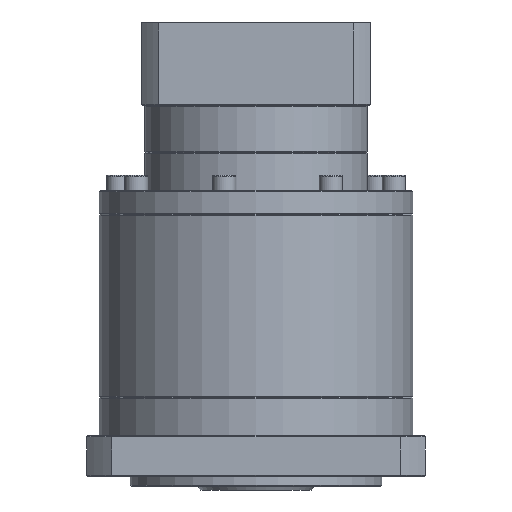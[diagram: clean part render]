
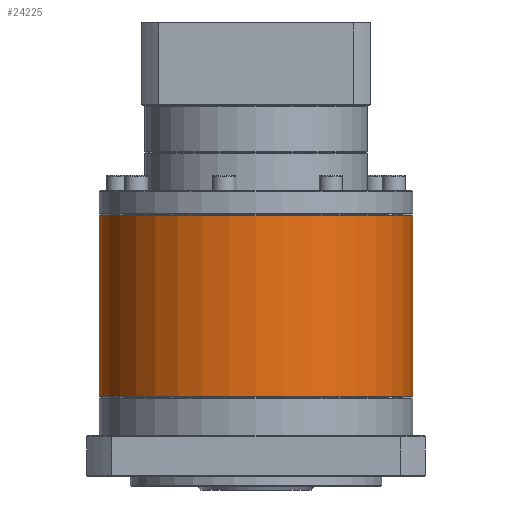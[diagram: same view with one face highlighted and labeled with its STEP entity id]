
A CAD part, front view. The second image highlights one B-rep face of the part: STEP entity #24225.
In plain terms, the highlighted cylindrical face has radius 81 mm (diameter 162 mm), a partial arc.
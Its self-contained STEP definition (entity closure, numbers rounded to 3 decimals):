
#2371 = CARTESIAN_POINT ( 'NONE',  ( -196.798, 65.29, -71.024 ) ) ;
#2865 = AXIS2_PLACEMENT_3D ( 'NONE', #53434, #47329, #76866 ) ;
#4162 = VERTEX_POINT ( 'NONE', #2371 ) ;
#5660 = EDGE_CURVE ( 'NONE', #53592, #35833, #11037, .T. ) ;
#10255 = DIRECTION ( 'NONE',  ( 0., 0., -1. ) ) ;
#11037 = CIRCLE ( 'NONE', #87203, 81. ) ;
#11324 = CARTESIAN_POINT ( 'NONE',  ( -34.798, 65.29, -70.524 ) ) ;
#12424 = CARTESIAN_POINT ( 'NONE',  ( -196.798, 65.29, -70.524 ) ) ;
#15267 = DIRECTION ( 'NONE',  ( 0., 0., 1. ) ) ;
#17697 = DIRECTION ( 'NONE',  ( -1., 0., 0. ) ) ;
#21314 = CYLINDRICAL_SURFACE ( 'NONE', #99469, 81. ) ;
#24225 = ADVANCED_FACE ( 'NONE', ( #89250 ), #21314, .T. ) ;
#25211 = EDGE_CURVE ( 'NONE', #90177, #4162, #95127, .T. ) ;
#26869 = DIRECTION ( 'NONE',  ( 0., 0., -1. ) ) ;
#31642 = LINE ( 'NONE', #11324, #41309 ) ;
#35833 = VERTEX_POINT ( 'NONE', #36592 ) ;
#36592 = CARTESIAN_POINT ( 'NONE',  ( -34.798, 65.29, -164.524 ) ) ;
#41084 = VECTOR ( 'NONE', #66656, 1000. ) ;
#41309 = VECTOR ( 'NONE', #26869, 1000. ) ;
#41386 = CARTESIAN_POINT ( 'NONE',  ( -115.798, 65.29, -70.524 ) ) ;
#45950 = ORIENTED_EDGE ( 'NONE', *, *, #25211, .T. ) ;
#47329 = DIRECTION ( 'NONE',  ( 0., 0., -1. ) ) ;
#48577 = EDGE_CURVE ( 'NONE', #4162, #53592, #100530, .T. ) ;
#50322 = ORIENTED_EDGE ( 'NONE', *, *, #51780, .F. ) ;
#50323 = EDGE_LOOP ( 'NONE', ( #50322, #45950, #53686, #81093 ) ) ;
#51780 = EDGE_CURVE ( 'NONE', #90177, #35833, #31642, .T. ) ;
#53434 = CARTESIAN_POINT ( 'NONE',  ( -115.798, 65.29, -71.024 ) ) ;
#53592 = VERTEX_POINT ( 'NONE', #68042 ) ;
#53686 = ORIENTED_EDGE ( 'NONE', *, *, #48577, .T. ) ;
#55175 = CARTESIAN_POINT ( 'NONE',  ( -34.798, 65.29, -71.024 ) ) ;
#61993 = DIRECTION ( 'NONE',  ( -1., 0., 0. ) ) ;
#66656 = DIRECTION ( 'NONE',  ( 0., 0., -1. ) ) ;
#68042 = CARTESIAN_POINT ( 'NONE',  ( -196.798, 65.29, -164.524 ) ) ;
#76866 = DIRECTION ( 'NONE',  ( -1., 0., 0. ) ) ;
#81093 = ORIENTED_EDGE ( 'NONE', *, *, #5660, .T. ) ;
#87203 = AXIS2_PLACEMENT_3D ( 'NONE', #100293, #15267, #61993 ) ;
#89250 = FACE_OUTER_BOUND ( 'NONE', #50323, .T. ) ;
#90177 = VERTEX_POINT ( 'NONE', #55175 ) ;
#95127 = CIRCLE ( 'NONE', #2865, 81. ) ;
#99469 = AXIS2_PLACEMENT_3D ( 'NONE', #41386, #10255, #17697 ) ;
#100293 = CARTESIAN_POINT ( 'NONE',  ( -115.798, 65.29, -164.524 ) ) ;
#100530 = LINE ( 'NONE', #12424, #41084 ) ;
